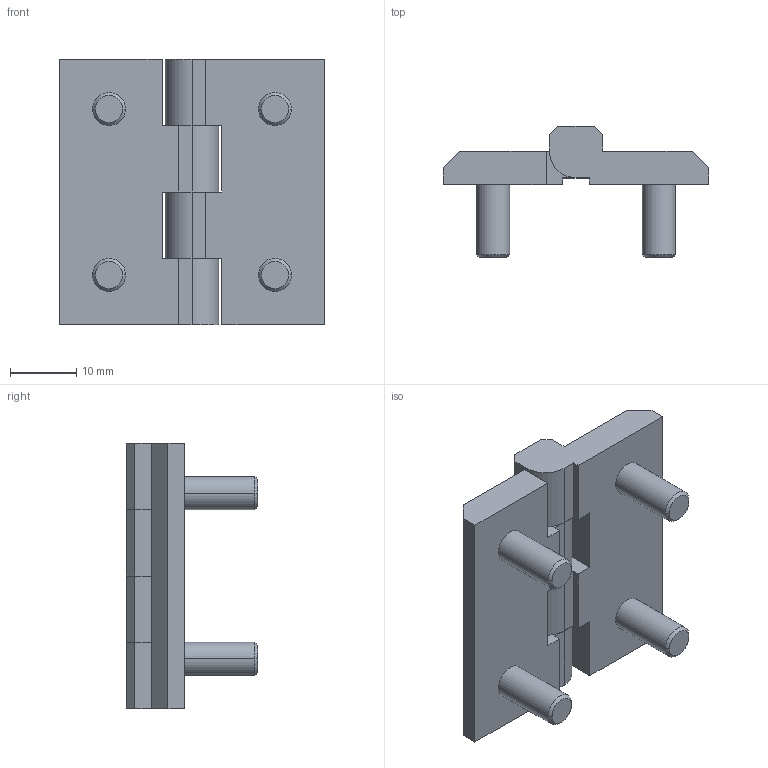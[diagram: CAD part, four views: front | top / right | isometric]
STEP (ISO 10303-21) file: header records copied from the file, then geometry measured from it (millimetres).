
FILE_DESCRIPTION(('STEP AP203'),'1');
FILE_NAME(' ',' ',('TraceParts'),('TraceParts S.A.'),'XStep 1.0',' ',' ');
FILE_SCHEMA(('CONFIG_CONTROL_DESIGN'));
Length unit declared in the file: millimetre
Products named in the file (2): 1; 2
Bounding box: 40 x 19.75 x 40 mm (x, y, z)
Volume: 9268.5 mm3; surface area: 5906.6 mm2
Topology: 2 solids, 2 shells, 83 faces, 214 edges, 140 vertices
Faces by surface type: plane 55, cylinder 20, cone 8
Entity records: 2612 total; most frequent: CARTESIAN_POINT 439, DIRECTION 432, ORIENTED_EDGE 428, EDGE_CURVE 214, LINE 166, VECTOR 166, VERTEX_POINT 140, AXIS2_PLACEMENT_3D 133
